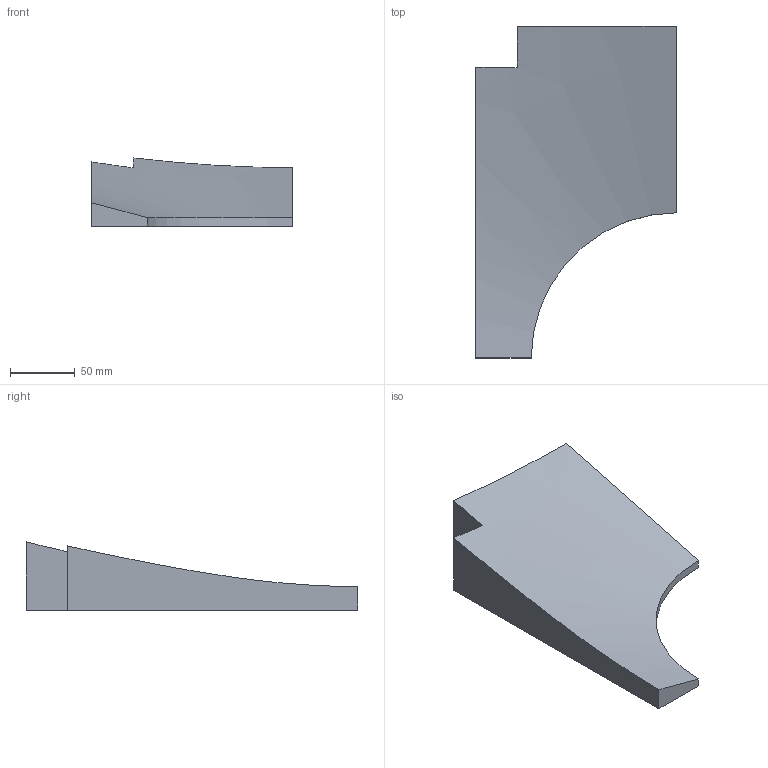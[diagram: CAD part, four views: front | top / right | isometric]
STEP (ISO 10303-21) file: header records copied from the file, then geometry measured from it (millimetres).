
FILE_DESCRIPTION(('Open CASCADE Model'),'2;1');
FILE_NAME('Open CASCADE Shape Model','2026-10-06T19:56:10',('Author'),( 'Open CASCADE'),'Open CASCADE STEP processor 7.9','Open CASCADE 7.9' ,'Unknown');
FILE_SCHEMA(('AUTOMOTIVE_DESIGN { 1 0 10303 214 1 1 1 1 }'));
Length unit declared in the file: millimetre
Products named in the file (1): Open CASCADE STEP translator 7.9 33
Bounding box: 155 x 256 x 52.6 mm (x, y, z)
Volume: 752167.9 mm3; surface area: 79595.4 mm2
Topology: 1 solids, 1 shells, 9 faces, 21 edges, 14 vertices
Faces by surface type: plane 7, cone 1, cylinder 1
Entity records: 556 total; most frequent: CARTESIAN_POINT 170, DIRECTION 56, ORIENTED_EDGE 42, PCURVE 42, DEFINITIONAL_REPRESENTATION 42, B_SPLINE_CURVE_WITH_KNOTS 28, LINE 24, VECTOR 24
